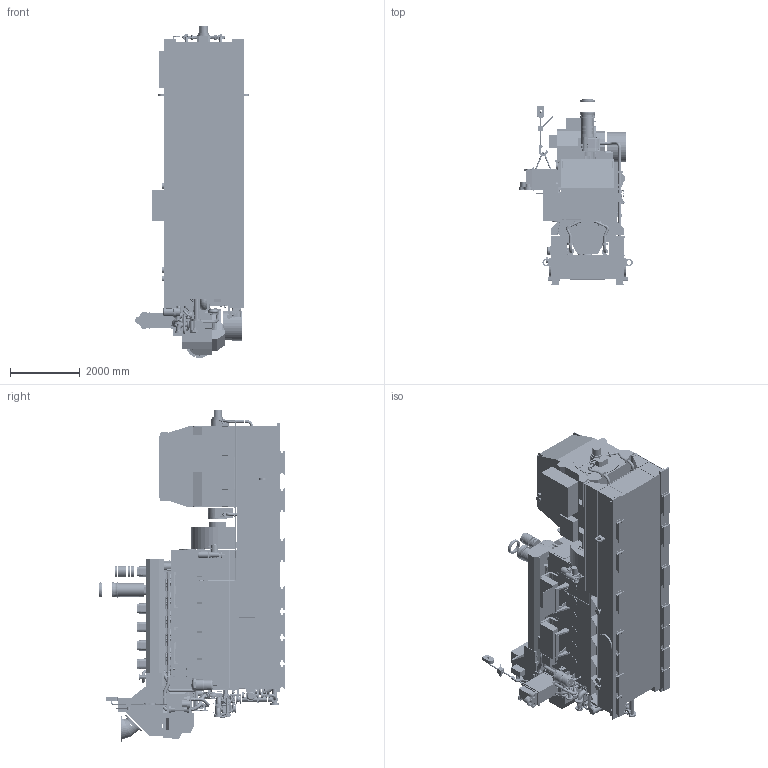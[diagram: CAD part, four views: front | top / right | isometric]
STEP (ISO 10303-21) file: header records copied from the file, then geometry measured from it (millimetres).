
FILE_DESCRIPTION((''),'2;1');
FILE_NAME('6M34DF_GENSET_STP_ASM','2015-11-18T',('petera8'),('Caterpillar Motoren GmbH & Co.KG'),'PRO/ENGINEER BY PARAMETRIC TECHNOLOGY CORPORATION, 2014200','PRO/ENGINEER BY PARAMETRIC TECHNOLOGY CORPORATION, 2014200','');
FILE_SCHEMA(('CONFIG_CONTROL_DESIGN'));
Products named in the file (5): 6M34DF_GENSET_STP_ENGINE_P01; 6M34DF_GENSET_STP_COMPLETE_P01; 6M34DF_GENSET_STP_RESIL_MO_P01; 6M34DF_GENSET_STP_REM_SPAC_P01; 6M34DF_GENSET_STP_ASM
Assembly tree (4 placements, depth 2):
  6M34DF_GENSET_STP_ASM
    6M34DF_GENSET_STP_ENGINE_P01
    6M34DF_GENSET_STP_COMPLETE_P01
    6M34DF_GENSET_STP_RESIL_MO_P01
    6M34DF_GENSET_STP_REM_SPAC_P01
Bounding box: 3266.49 x 5336 x 9522.77 mm (x, y, z)
Surface area: 264848845.1 mm2 (no closed solid volume)
Topology: 0 solids, 925 shells, 4934 faces, 22274 edges, 17916 vertices
Faces by surface type: plane 2701, cylinder 1442, bspline 404, torus 176, cone 94, extrusion 79, revolution 28, sphere 10
Entity records: 311094 total; most frequent: CARTESIAN_POINT 111278, DIRECTION 36449, ORIENTED_EDGE 30241, EDGE_CURVE 22246, VERTEX_POINT 17916, VECTOR 12377, LINE 12298, AXIS2_PLACEMENT_3D 12022
